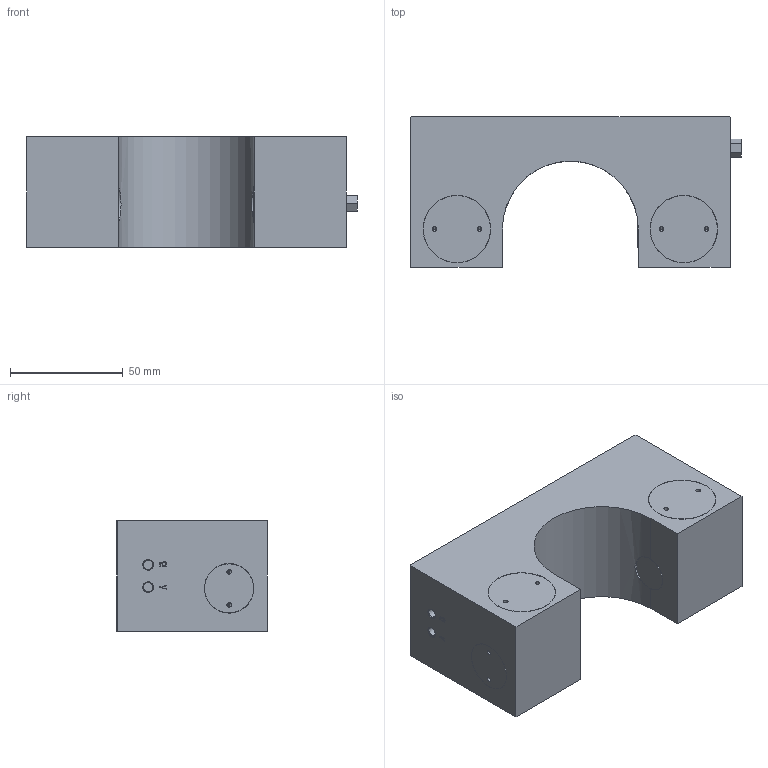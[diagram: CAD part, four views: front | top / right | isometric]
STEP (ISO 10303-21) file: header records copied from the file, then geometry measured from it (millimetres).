
FILE_DESCRIPTION( ( '' ), '1' );
FILE_NAME( 'E:/04 嬴檜蠱滌/0404 ZIMMER/040414 ZIMMER CAD download/MKR/MKR6000A.stp', '2020-04-16T10:10:22', ( '' ), ( '' ), ' ', ' ', ' ' );
FILE_SCHEMA( ( 'automotive_design' ) );
Length unit declared in the file: millimetre
Products named in the file (1): 1
Bounding box: 147 x 67 x 49 mm (x, y, z)
Volume: 342105.4 mm3; surface area: 42571.2 mm2
Topology: 1 solids, 2 shells, 184 faces, 426 edges, 264 vertices
Faces by surface type: plane 87, cylinder 65, cone 32
Entity records: 10124 total; most frequent: CARTESIAN_POINT 1041, DIRECTION 914, STYLED_ITEM 859, PRESENTATION_STYLE_ASSIGNMENT 859, COLOUR_RGB 859, ORIENTED_EDGE 820, EDGE_CURVE 410, CURVE_STYLE 410
